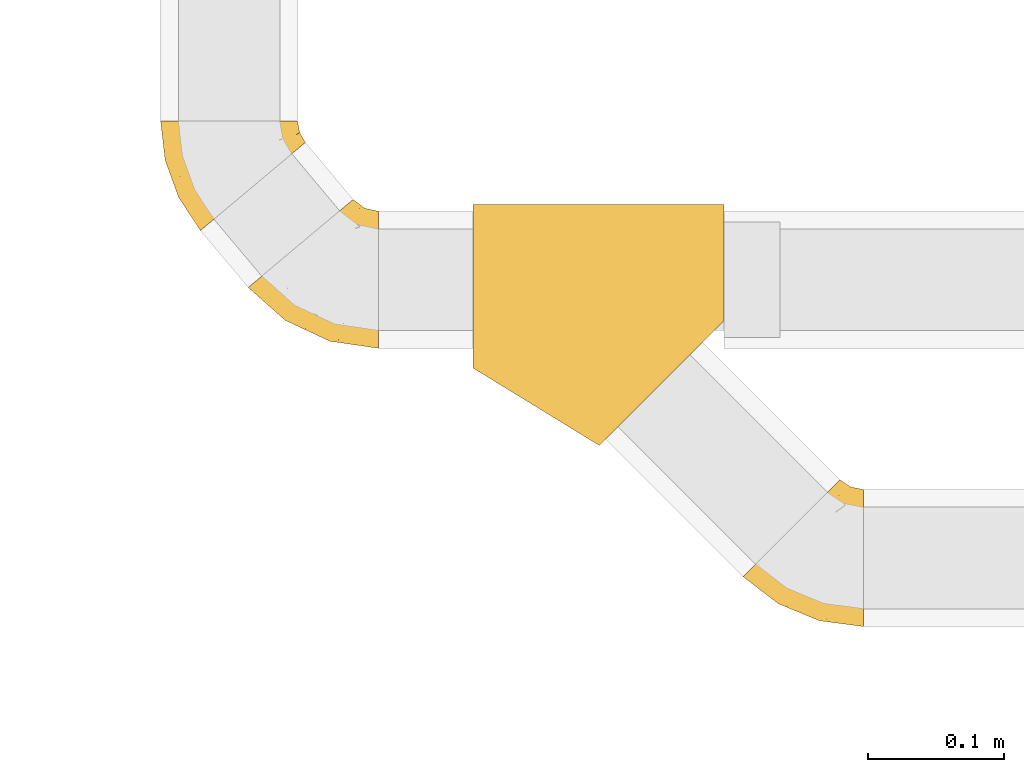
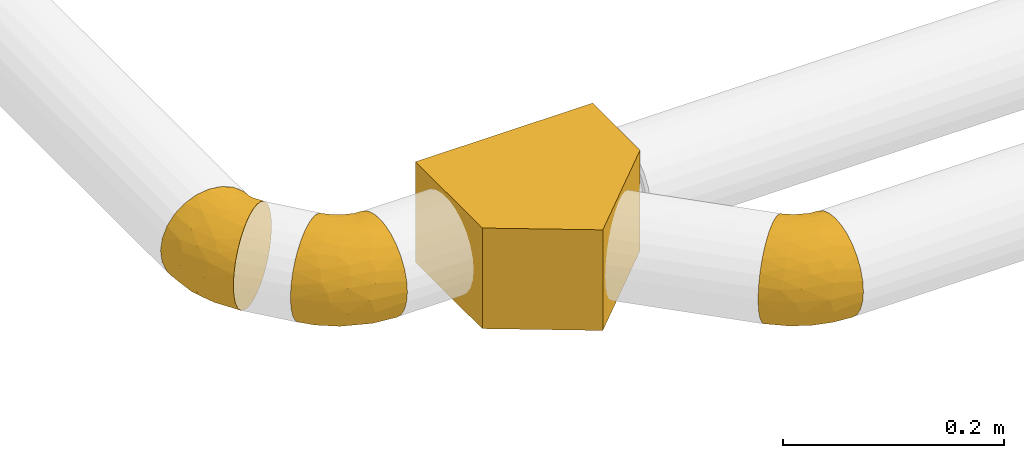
# One storey, part 34 of 156: 4 coverings.
"""IFC2X3 building model written with IfcOpenShell, lengths in millimetres."""

from ifc_helpers import new_model, entity, si_unit, converted_unit, derived_unit, direction, frame, origin_with_axes, place, context, subcontext, project, spatial, open_shell, surface_model, source, transform, mapped, element, save


model = new_model("IFC2X3")

# Units and contexts
model_context = context("Model", 3, precision=0.01, world=frame((0.0, 4.29681676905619e-09, 0.0)), true_north=direction((4.01073788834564e-13, 1.0)))
plan_context = context("Plan", 3, precision=0.01, world=frame((0.0, 4.29681676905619e-09, 0.0)), true_north=direction((4.01073788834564e-13, 1.0)))
body_context = subcontext(model_context, "Body", "Model", "MODEL_VIEW")
ifc_project = project(units=[converted_unit("PLANEANGLEUNIT", "DEGREE", entity("IfcPositiveLengthMeasure", 0.0174532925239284), si_unit("PLANEANGLEUNIT", "RADIAN"), dimensions=[0, 0, 0, 0, 0, 0, 0]), si_unit("AREAUNIT", "SQUARE_METRE"), si_unit("LENGTHUNIT", "METRE", prefix="MILLI"), si_unit("MASSUNIT", "GRAM", prefix="KILO"), si_unit("POWERUNIT", "WATT"), si_unit("PRESSUREUNIT", "PASCAL", prefix="KILO"), si_unit("FORCEUNIT", "NEWTON", prefix="KILO"), si_unit("ELECTRICVOLTAGEUNIT", "VOLT"), si_unit("ELECTRICCURRENTUNIT", "AMPERE"), si_unit("THERMODYNAMICTEMPERATUREUNIT", "DEGREE_CELSIUS"), si_unit("TIMEUNIT", "SECOND"), si_unit("VOLUMEUNIT", "CUBIC_METRE"), derived_unit("LINEARVELOCITYUNIT", [(si_unit("LENGTHUNIT", "METRE"), 1), (si_unit("TIMEUNIT", "SECOND"), -1)]), derived_unit("VOLUMETRICFLOWRATEUNIT", [(si_unit("VOLUMEUNIT", "CUBIC_METRE"), 1), (si_unit("TIMEUNIT", "SECOND"), -1)]), derived_unit("THERMALTRANSMITTANCEUNIT", [(si_unit("POWERUNIT", "WATT"), 1), (si_unit("THERMODYNAMICTEMPERATUREUNIT", "KELVIN"), -1), (si_unit("AREAUNIT", "SQUARE_METRE"), -1)]), derived_unit("SOUNDPRESSUREUNIT", [(si_unit("PRESSUREUNIT", "PASCAL"), 1)])], contexts=[model_context, plan_context])

# Site, building, storey
site_placement = place(None, frame((0.0, -4.29681676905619e-09, 0.0), z_axis=(0.0, 0.0, 1.0), x_axis=(1.0, 0.0, 0.0)))
site = spatial("IfcSite", under=ifc_project, at=site_placement, CompositionType="ELEMENT")
building_placement = place(site_placement, frame((0.0, 4.29681676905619e-09, 0.0), z_axis=(0.0, 0.0, 1.0), x_axis=(1.0, 0.0, 0.0)))
building = spatial("IfcBuilding", under=site, at=building_placement, Name="mc-building", CompositionType="ELEMENT")
storey_placement = place(building_placement, frame((0.0, 0.0, 205200.0), z_axis=(0.0, 0.0, 1.0), x_axis=(1.0, 0.0, 0.0)))
storey = spatial("IfcBuildingStorey", under=building, at=storey_placement, Name="Nivå D + 1,2 m", CompositionType="ELEMENT", Elevation=205200.0)

# Coverings
shared_shape_1 = source(origin_with_axes(), body_context, "Body", "SurfaceModel", [
    surface_model("IfcShellBasedSurfaceModel", [(-10.73479, 55.26101, 11.24292), (-10.73655, 55.26311, -11.23089), (-11.54947, 56.23191, 0.0), (-4.4636, 47.7873, 31.49394), (-8.33238, 52.39793, 21.91909), (0.67707, 41.66089, 39.48835), (6.8318, 34.32597, 45.50245), (34.99081, 0.76737, -45.50245), (6.82198, 34.33767, -45.49509), (-8.33711, 52.40356, -21.90382), (-4.47132, 47.7965, -31.47888), (0.66739, 41.67242, -39.47635), (20.9113, 17.54667, -50.5), (13.68449, 26.15925, -49.23258), (52.55739, -20.16768, -11.24292), (13.69223, 26.15003, 49.23533), (20.9113, 17.54667, 50.5), (28.13811, 8.93409, 49.23258), (35.00063, 0.75567, 45.49509), (46.29393, -12.70317, 31.47888), (50.15971, -17.31023, 21.90382), (52.55916, -20.16978, 11.23089), (41.15521, -6.57909, 39.47635), (53.37208, -21.13858, 0.0), (46.28621, -12.69397, -31.49394), (41.14554, -6.56756, -39.48835), (28.13038, 8.94331, -49.23533), (50.15498, -17.3046, -21.91909), (-27.29777, 25.25, -43.73428), (-27.29777, 50.5, 0.0), (-27.29777, 48.77925, -13.07036), (-27.29777, 43.73428, -25.25), (-27.29777, 13.07036, 48.77925), (-27.29777, 35.70889, -35.70889), (-27.29777, 13.07036, -48.77925), (-27.29777, 48.77925, 13.07036), (-27.29777, 35.70889, 35.70889), (-27.29777, 43.73428, 25.25), (-27.29777, 25.25, 43.73428), (-27.29777, 0.0, 50.5), (-27.29777, 0.0, -50.5), (-27.29777, -35.70889, -35.70889), (-27.29777, -13.07036, -48.77925), (-27.29777, -25.25, -43.73428), (-27.29777, -25.25, 43.73428), (-27.29777, -43.73428, -25.25), (-27.29777, -48.77925, -13.07036), (-27.29777, -50.5, 0.0), (-27.29777, -35.70889, 35.70889), (-27.29777, -13.07036, 48.77925), (-27.29777, -43.73428, 25.25), (-27.29777, -48.77925, 13.07036), (24.50874, -23.71011, 34.92165), (1.64452, -47.11713, 0.0), (-0.50974, -33.45104, 34.67841), (-5.7509, -42.94288, 23.12351), (2.51349, -44.7395, 14.42915), (30.43497, -33.46022, 16.08877), (13.99213, -36.07158, 25.65507), (12.62564, -9.20355, 47.11077), (11.53857, -0.08096, 49.59253), (-5.60727, -8.7821, 49.16278), (9.00341, -21.96661, 41.66272), (-7.5202, -19.11975, 45.84603), (29.02653, -37.1509, 0.0), (33.69398, -26.13149, 26.31832), (-1.64626, 4.52305, 50.5), (-21.5737, 46.18174, 21.66052), (-22.11248, 49.56078, 12.06456), (-14.71826, 13.31945, 49.04135), (-9.27281, 30.39592, 42.74452), (-19.41917, 31.44936, 40.06434), (-16.8979, 22.67674, 45.62224), (-17.17817, 49.60577, 16.68598), (-21.07383, 40.62322, 30.74245), (-18.91827, 51.97753, 0.0), (-15.19761, 45.08997, 26.90654), (-13.52472, 38.19471, 35.7157), (-5.69109, 20.82169, 47.66853), (-1.55839, 21.32065, -48.07257), (-16.54857, 20.37305, -46.65592), (-10.47672, 29.91101, -42.7546), (-21.49618, 40.54943, -30.74245), (-21.82982, 47.18834, -19.32551), (-16.02986, 44.7977, -26.86021), (-22.00416, 51.43341, 0.0), (-22.58305, 49.98394, -9.78203), (-19.69141, 31.91784, -39.66853), (-15.2187, 10.91055, -49.5435), (-13.84978, 38.08876, -35.70248), (-15.66454, 50.72481, -15.44149), (-1.64626, 4.52305, -50.5), (-11.09284, 2.85737, -50.5), (12.62147, -9.19037, -47.11606), (-0.51198, -33.43801, -34.69236), (13.98762, -36.06379, -25.67011), (-5.74954, -42.93457, -23.13889), (-5.61289, -8.76264, -49.16753), (24.50363, -23.69795, -34.93537), (-7.53545, -19.1061, -45.85365), (9.00008, -21.9521, -41.67282), (2.50702, -44.73567, -14.44684), (30.4298, -33.45783, -16.10226), (33.68933, -26.12343, -26.33354), (11.535, -0.06906, -49.59487)], [open_shell([[[0, 1, 2]], [[3, 0, 4]], [[5, 6, 7]], [[8, 0, 5]], [[0, 3, 5]], [[5, 7, 8]], [[9, 8, 10]], [[8, 9, 1]], [[11, 10, 8]], [[12, 13, 8]], [[0, 8, 1]], [[8, 7, 12]], [[14, 6, 15]], [[16, 17, 18]], [[14, 16, 18]], [[14, 18, 19]], [[20, 21, 19]], [[19, 18, 22]], [[23, 19, 21]], [[7, 24, 25]], [[7, 26, 12]], [[14, 24, 7]], [[27, 24, 14]], [[14, 7, 6]], [[19, 23, 14]], [[14, 15, 16]], [[28, 29, 30]], [[28, 30, 31]], [[29, 28, 32]], [[28, 31, 33]], [[32, 28, 34]], [[35, 36, 37]], [[36, 35, 32]], [[36, 32, 38]], [[35, 29, 32]], [[34, 39, 32]], [[34, 40, 39]], [[41, 40, 42]], [[41, 42, 43]], [[44, 41, 45]], [[41, 44, 39]], [[46, 47, 45]], [[44, 47, 48]], [[49, 39, 44]], [[50, 47, 51]], [[47, 50, 48]], [[45, 47, 44]], [[39, 40, 41]], [[22, 52, 19]], [[51, 47, 53]], [[54, 50, 55]], [[56, 57, 58]], [[54, 44, 48]], [[55, 56, 58]], [[59, 60, 61]], [[62, 59, 63]], [[61, 39, 49]], [[49, 63, 61]], [[51, 56, 55]], [[62, 44, 54]], [[52, 62, 54]], [[62, 63, 44]], [[57, 56, 64]], [[64, 21, 57]], [[20, 19, 65]], [[20, 65, 57]], [[61, 63, 59]], [[23, 21, 64]], [[22, 62, 52]], [[57, 65, 58]], [[51, 53, 56]], [[60, 16, 66]], [[18, 17, 59]], [[62, 18, 59]], [[58, 52, 54]], [[50, 54, 48]], [[18, 62, 22]], [[64, 56, 53]], [[52, 65, 19]], [[20, 57, 21]], [[49, 44, 63]], [[65, 52, 58]], [[60, 59, 17]], [[39, 61, 66]], [[16, 60, 17]], [[66, 61, 60]], [[54, 55, 58]], [[51, 55, 50]], [[35, 67, 68]], [[39, 66, 69]], [[70, 71, 72]], [[32, 69, 72]], [[67, 73, 68]], [[5, 70, 6]], [[74, 37, 36]], [[73, 75, 68]], [[74, 36, 71]], [[76, 74, 77]], [[77, 3, 76]], [[35, 68, 29]], [[78, 66, 15]], [[6, 70, 78]], [[3, 77, 5]], [[4, 73, 76]], [[38, 71, 36]], [[78, 15, 6]], [[77, 71, 70]], [[69, 78, 72]], [[4, 0, 73]], [[76, 73, 67]], [[0, 2, 75]], [[67, 37, 74]], [[76, 67, 74]], [[75, 73, 0]], [[67, 35, 37]], [[4, 76, 3]], [[72, 71, 38]], [[15, 66, 16]], [[74, 71, 77]], [[29, 68, 75]], [[5, 77, 70]], [[32, 72, 38]], [[70, 72, 78]], [[39, 69, 32]], [[66, 78, 69]], [[79, 80, 81]], [[13, 79, 8]], [[82, 83, 84]], [[29, 85, 86]], [[83, 30, 86]], [[31, 82, 33]], [[80, 28, 87]], [[79, 88, 80]], [[82, 89, 87]], [[8, 79, 81]], [[90, 75, 1]], [[88, 40, 34]], [[90, 84, 83]], [[86, 85, 75]], [[10, 84, 9]], [[10, 11, 89]], [[83, 31, 30]], [[33, 82, 87]], [[9, 84, 90]], [[81, 89, 11]], [[80, 34, 28]], [[81, 11, 8]], [[13, 12, 91]], [[88, 91, 92]], [[9, 90, 1]], [[80, 88, 34]], [[88, 79, 91]], [[91, 79, 13]], [[75, 90, 86]], [[1, 75, 2]], [[29, 86, 30]], [[86, 90, 83]], [[40, 88, 92]], [[83, 82, 31]], [[89, 82, 84]], [[89, 84, 10]], [[89, 81, 87]], [[80, 87, 81]], [[28, 33, 87]], [[26, 7, 93]], [[94, 95, 96]], [[91, 97, 40]], [[98, 25, 24]], [[98, 95, 94]], [[99, 93, 100]], [[47, 46, 53]], [[97, 99, 42]], [[101, 95, 102]], [[98, 103, 95]], [[100, 94, 43]], [[101, 96, 95]], [[43, 42, 99]], [[94, 45, 41]], [[97, 104, 93]], [[102, 103, 27]], [[100, 93, 7]], [[64, 101, 102]], [[100, 7, 25]], [[103, 98, 24]], [[94, 41, 43]], [[98, 100, 25]], [[96, 46, 45]], [[103, 24, 27]], [[14, 23, 64]], [[101, 64, 53]], [[14, 64, 102]], [[103, 102, 95]], [[99, 100, 43]], [[14, 102, 27]], [[93, 99, 97]], [[104, 12, 26]], [[53, 46, 101]], [[98, 94, 100]], [[40, 97, 42]], [[93, 104, 26]], [[97, 91, 104]], [[12, 104, 91]], [[46, 96, 101]], [[94, 96, 45]]])]),
])
covering_1_placement = place(storey_placement, frame((338407.25109, 460598.98935, 4098.75644), z_axis=(0.0, 0.0, 1.0), x_axis=(0.0, -1.0, 0.0)))
element("IfcCovering", 1, at=covering_1_placement, inside=storey, Name="BI17T - Cellegummi 13 mm SPV fett", PredefinedType="INSULATION", context=body_context, shape_type="MappedRepresentation", body=[
    mapped(shared_shape_1, transform((0.0, 0.0, 0.0), scale=1.0)),
])
shared_shape_2 = source(origin_with_axes(), body_context, "Body", "SurfaceModel", [
    surface_model("IfcShellBasedSurfaceModel", [(-15.23408, 58.43702, 11.24292), (-15.23619, 58.43878, -11.23089), (-16.20499, 59.2517, 0.0), (-7.76038, 52.16583, 31.49394), (-12.371, 56.03461, 21.91909), (5.70096, 40.87043, 45.50245), (13.8769, 34.01001, 49.23533), (-1.63396, 47.02516, 39.48835), (39.25956, 12.71142, -45.50245), (22.48026, 26.79093, -50.5), (31.09284, 19.56412, 49.23258), (-12.37664, 56.03934, -21.90382), (5.68926, 40.88025, -45.49509), (-7.76957, 52.17356, -31.47888), (-1.6455, 47.03484, -39.47635), (13.86768, 34.01774, -49.23258), (22.48026, 26.79093, 50.5), (52.73009, 1.40831, 31.47888), (39.27126, 12.70161, 45.49509), (57.33716, -2.45748, 21.90382), (60.19671, -4.85693, 11.23089), (46.60601, 6.54702, 39.47635), (46.59448, 6.55669, -39.48835), (31.08362, 19.57185, -49.23533), (57.33152, -2.45275, -21.91909), (52.7209, 1.41602, -31.49394), (60.1946, -4.85516, -11.24292), (61.1655, -5.66984, 0.0), (-34.97307, 25.25, -43.73428), (-34.97307, 50.5, 0.0), (-34.97307, 48.77925, -13.07036), (-34.97307, 43.73428, -25.25), (-34.97307, 13.07036, 48.77925), (-34.97307, 35.70889, -35.70889), (-34.97307, 13.07036, -48.77925), (-34.97307, 48.77925, 13.07036), (-34.97307, 35.70889, 35.70889), (-34.97307, 43.73428, 25.25), (-34.97307, 25.25, 43.73428), (-34.97307, 0.0, 50.5), (-34.97307, 0.0, -50.5), (-34.97307, -35.70889, -35.70889), (-34.97307, -13.07036, -48.77925), (-34.97307, -25.25, -43.73428), (-34.97307, -25.25, 43.73428), (-34.97307, -43.73428, -25.25), (-34.97307, -48.77925, -13.07036), (-34.97307, -50.5, 0.0), (-34.97307, -35.70889, 35.70889), (-34.97307, -13.07036, 48.77925), (-34.97307, -43.73428, 25.25), (-34.97307, -48.77925, 13.07036), (29.21895, -16.61769, 34.51103), (1.02073, -45.22769, 0.0), (-1.35468, -44.96834, 9.54514), (-10.47961, -38.16528, 29.77889), (-7.82208, -43.93713, 18.4811), (23.05133, 2.14665, 47.13078), (-15.76188, -18.79177, 46.045), (2.09513, -18.12003, 43.74772), (4.01242, -8.60466, 47.46338), (33.9903, -29.85372, 0.0), (37.56527, -24.27812, 15.82903), (-18.99617, -30.34798, 39.42947), (-14.62603, -9.24787, 49.13307), (36.40833, -19.4165, 25.88258), (15.85383, -32.49307, 24.95393), (2.0076, -26.08345, 38.53783), (12.84546, -28.00357, 32.60698), (15.54788, -37.6623, 14.16981), (28.0995, -6.6524, 41.90906), (11.87681, 4.4448, 49.56098), (6.2401, 12.33841, 50.5), (-13.46283, 3.15079, 50.5), (-14.88994, 49.77236, 26.87553), (-12.3386, 42.87514, 35.7157), (-25.66347, 31.73267, 40.06434), (-15.77836, 17.67758, 48.35877), (-26.90924, 49.76108, 14.05682), (-24.61893, 52.79546, 0.0), (-29.796, 51.64773, 0.0), (-19.22873, 52.65299, 16.68598), (-21.15869, 45.86362, 26.87553), (-1.37777, 27.31884, 47.66853), (-14.34876, 31.50199, 42.76423), (-19.76713, 39.43671, 35.08482), (-27.29835, 40.48264, 31.28807), (-27.11755, 45.94914, 23.10238), (-20.41196, 56.02358, 0.0), (-4.99054, 37.33718, 42.76423), (-24.86574, 22.94343, 45.46991), (-5.00012, 37.34915, -42.7546), (-12.34644, 42.88627, -35.70208), (-1.38711, 27.32917, -47.6637), (-26.90245, 49.76589, -14.04815), (-21.16245, 45.8725, -26.86021), (-27.62433, 40.84599, -30.74245), (-29.34472, 46.01106, -21.97166), (-13.46283, 3.15079, -50.5), (-14.35587, 31.51557, -42.7546), (-15.79486, 17.6838, -48.35542), (-19.23087, 52.6574, -16.67216), (-19.28064, 38.29892, -36.32224), (-25.48568, 32.33008, -39.63971), (-21.37984, 25.09164, -44.81729), (-14.89592, 49.77991, -26.86021), (6.2401, 12.33841, -50.5), (-15.76188, -18.79177, -46.045), (-10.47877, -38.16513, -29.77886), (-19.01221, -30.34958, -39.43012), (-14.62603, -9.24787, -49.13307), (29.20656, -16.61099, -34.52448), (28.08827, -6.64256, -41.91891), (2.09535, -18.12013, -43.74762), (23.04328, 2.15767, -47.13603), (1.98113, -26.09165, -38.539), (12.84536, -27.99416, -32.61712), (-1.31613, -44.95705, -9.54753), (11.8522, 4.43273, -49.56167), (4.01242, -8.60466, -47.46338), (-7.81148, -43.93485, -18.48077), (15.84914, -32.48593, -24.96882), (15.5568, -37.65042, -14.19437), (37.5607, -24.27599, -15.84242), (39.77796, -16.64601, -26.04522)], [open_shell([[[0, 1, 2]], [[3, 0, 4]], [[5, 6, 7]], [[8, 9, 0]], [[0, 3, 7]], [[7, 10, 0]], [[11, 12, 13]], [[12, 11, 1]], [[14, 13, 12]], [[9, 15, 12]], [[1, 9, 12]], [[1, 0, 9]], [[7, 6, 16]], [[8, 0, 10]], [[17, 10, 18]], [[8, 10, 17]], [[19, 20, 17]], [[17, 18, 21]], [[22, 17, 20]], [[17, 22, 8]], [[23, 9, 8]], [[24, 22, 20]], [[25, 22, 24]], [[26, 24, 20]], [[26, 20, 27]], [[7, 16, 10]], [[28, 29, 30]], [[28, 30, 31]], [[29, 28, 32]], [[28, 31, 33]], [[32, 28, 34]], [[35, 36, 37]], [[36, 35, 32]], [[36, 32, 38]], [[35, 29, 32]], [[34, 39, 32]], [[34, 40, 39]], [[41, 40, 42]], [[41, 42, 43]], [[44, 41, 45]], [[41, 44, 39]], [[46, 47, 45]], [[44, 47, 48]], [[49, 39, 44]], [[50, 47, 51]], [[47, 50, 48]], [[45, 47, 44]], [[39, 40, 41]], [[52, 17, 21]], [[47, 53, 54]], [[55, 50, 56]], [[55, 48, 50]], [[18, 10, 57]], [[58, 59, 60]], [[61, 20, 62]], [[63, 44, 48]], [[64, 39, 49]], [[49, 58, 64]], [[44, 58, 49]], [[65, 66, 62]], [[67, 63, 55]], [[67, 68, 52]], [[62, 69, 61]], [[66, 56, 69]], [[21, 70, 52]], [[65, 52, 68]], [[65, 17, 52]], [[20, 61, 27]], [[57, 60, 59]], [[10, 16, 71]], [[50, 51, 56]], [[55, 66, 68]], [[70, 21, 18]], [[72, 71, 16]], [[64, 71, 73]], [[57, 71, 60]], [[57, 59, 70]], [[57, 70, 18]], [[52, 70, 67]], [[66, 69, 62]], [[56, 66, 55]], [[62, 20, 19]], [[10, 71, 57]], [[54, 51, 47]], [[73, 71, 72]], [[56, 54, 69]], [[61, 69, 53]], [[58, 44, 63]], [[64, 58, 60]], [[71, 64, 60]], [[39, 64, 73]], [[63, 59, 58]], [[70, 59, 67]], [[51, 54, 56]], [[53, 69, 54]], [[55, 63, 48]], [[63, 67, 59]], [[55, 68, 67]], [[65, 68, 66]], [[62, 19, 65]], [[17, 65, 19]], [[74, 75, 3]], [[32, 39, 73]], [[38, 76, 36]], [[73, 72, 77]], [[78, 79, 80]], [[4, 0, 81]], [[80, 35, 78]], [[32, 73, 77]], [[81, 78, 82]], [[83, 84, 77]], [[76, 84, 85]], [[86, 87, 37]], [[0, 88, 81]], [[80, 29, 35]], [[83, 77, 72]], [[75, 74, 82]], [[5, 7, 89]], [[5, 89, 83]], [[7, 3, 75]], [[16, 6, 72]], [[84, 76, 90]], [[86, 36, 76]], [[3, 4, 74]], [[32, 77, 90]], [[79, 78, 81]], [[72, 6, 83]], [[87, 35, 37]], [[82, 74, 81]], [[82, 86, 85]], [[89, 75, 84]], [[83, 89, 84]], [[5, 83, 6]], [[81, 74, 4]], [[75, 89, 7]], [[90, 76, 38]], [[75, 82, 85]], [[87, 86, 82]], [[37, 36, 86]], [[76, 85, 86]], [[84, 75, 85]], [[32, 90, 38]], [[84, 90, 77]], [[82, 78, 87]], [[87, 78, 35]], [[88, 0, 2]], [[88, 79, 81]], [[91, 92, 14]], [[15, 93, 12]], [[1, 88, 2]], [[30, 80, 94]], [[95, 96, 97]], [[31, 96, 33]], [[40, 34, 98]], [[92, 91, 99]], [[93, 100, 99]], [[94, 79, 101]], [[96, 95, 102]], [[103, 99, 104]], [[34, 104, 100]], [[99, 103, 102]], [[1, 11, 101]], [[93, 91, 12]], [[13, 105, 11]], [[13, 14, 92]], [[30, 94, 97]], [[103, 33, 96]], [[105, 101, 11]], [[95, 105, 92]], [[100, 93, 106]], [[91, 14, 12]], [[15, 9, 106]], [[100, 106, 98]], [[104, 34, 28]], [[91, 93, 99]], [[94, 101, 95]], [[15, 106, 93]], [[92, 105, 13]], [[1, 101, 88]], [[101, 105, 95]], [[98, 34, 100]], [[97, 96, 31]], [[92, 99, 102]], [[104, 99, 100]], [[28, 33, 103]], [[96, 102, 103]], [[95, 92, 102]], [[30, 97, 31]], [[95, 97, 94]], [[101, 79, 88]], [[80, 30, 29]], [[80, 79, 94]], [[28, 103, 104]], [[43, 42, 107]], [[108, 41, 109]], [[98, 110, 40]], [[111, 112, 22]], [[112, 113, 114]], [[115, 116, 108]], [[46, 117, 47]], [[118, 119, 110]], [[120, 46, 45]], [[112, 114, 8]], [[43, 109, 41]], [[41, 108, 45]], [[118, 114, 119]], [[23, 8, 114]], [[118, 98, 106]], [[121, 120, 108]], [[9, 23, 118]], [[120, 45, 108]], [[111, 22, 25]], [[122, 121, 123]], [[116, 115, 111]], [[107, 110, 119]], [[46, 120, 117]], [[112, 115, 113]], [[120, 121, 122]], [[24, 123, 124]], [[26, 27, 61]], [[26, 61, 123]], [[8, 22, 112]], [[121, 111, 124]], [[122, 61, 53]], [[26, 123, 24]], [[25, 24, 124]], [[118, 23, 114]], [[115, 112, 111]], [[109, 107, 113]], [[118, 106, 9]], [[61, 122, 123]], [[117, 120, 122]], [[110, 107, 42]], [[113, 107, 119]], [[40, 110, 42]], [[118, 110, 98]], [[113, 119, 114]], [[109, 113, 115]], [[122, 53, 117]], [[117, 53, 47]], [[107, 109, 43]], [[108, 109, 115]], [[121, 124, 123]], [[25, 124, 111]], [[111, 121, 116]], [[108, 116, 121]]])]),
])
covering_2_placement = place(storey_placement, frame((338482.52781, 460509.27805, 4098.75644), z_axis=(0.0, 0.0, 1.0), x_axis=(0.642788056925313, -0.766044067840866, 0.0)))
element("IfcCovering", 2, at=covering_2_placement, inside=storey, Name="BI17T - Cellegummi 13 mm SPV fett", PredefinedType="INSULATION", context=body_context, shape_type="MappedRepresentation", body=[
    mapped(shared_shape_2, transform((0.0, 0.0, 0.0), scale=1.0)),
])
shared_shape_3 = source(origin_with_axes(), body_context, "Body", "SurfaceModel", [
    surface_model("IfcShellBasedSurfaceModel", [(51.5165, -65.10556, -55.5), (51.5165, -65.10556, 55.5), (-41.33792, -122.05044, 55.5), (-41.33792, -122.05044, -55.5), (-133.21068, -30.17767, -55.5), (-133.21068, -30.17767, 55.5), (-133.21068, 55.5, 55.5), (-133.21068, 55.5, -55.5), (51.5165, 55.5, -55.5), (51.5165, 55.5, 55.5)], [open_shell([[[0, 1, 2]], [[2, 3, 0]], [[3, 2, 4]], [[5, 4, 2]], [[6, 7, 4]], [[4, 5, 6]], [[8, 0, 4]], [[4, 7, 8]], [[4, 0, 3]], [[6, 5, 9]], [[1, 9, 5]], [[1, 5, 2]], [[1, 0, 8]], [[8, 9, 1]], [[8, 7, 9]], [[6, 9, 7]]])]),
])
covering_3_placement = place(storey_placement, frame((338638.7041, 460509.27805, 4098.23676), z_axis=(0.0, 0.0, -1.0), x_axis=(-1.0, 0.0, 0.0)))
element("IfcCovering", 3, at=covering_3_placement, inside=storey, Name="BI17T - Cellegummi 13 mm SPV fett", PredefinedType="INSULATION", context=body_context, shape_type="MappedRepresentation", body=[
    mapped(shared_shape_3, transform((0.0, 0.0, 0.0), scale=1.0)),
])
shared_shape_4 = source(origin_with_axes(), body_context, "Body", "SurfaceModel", [
    surface_model("IfcShellBasedSurfaceModel", [(-12.8457, 56.77968, 11.24292), (-12.84764, 56.78162, -11.23089), (-13.7419, 57.67589, 0.0), (-5.947, 49.88099, 31.49394), (-10.2029, 54.13688, 21.91909), (6.47865, 37.45533, 45.50245), (14.02555, 29.90843, 49.23533), (-0.29194, 44.22592, 39.48835), (37.45533, 6.47865, -45.50245), (-5.95549, 49.88947, -31.47888), (-10.2081, 54.14208, -21.90382), (21.96699, 21.96699, -50.5), (6.46785, 37.46613, -45.49509), (-0.30259, 44.23657, -39.47635), (14.01705, 29.91694, -49.23258), (29.91694, 14.01705, 49.23258), (54.14208, -10.2081, 21.90382), (37.46613, 6.46785, 45.49509), (49.88947, -5.95549, 31.47888), (56.77968, -12.8457, -11.24292), (44.23657, -0.30259, 39.47635), (56.78162, -12.84764, 11.23089), (49.88099, -5.947, -31.49394), (44.22592, -0.29194, -39.48835), (29.90843, 14.02555, -49.23533), (54.13688, -10.2029, -21.91909), (57.67589, -13.7419, 0.0), (21.96699, 21.96699, 50.5), (-31.06602, 25.25, -43.73428), (-31.06602, 50.5, 0.0), (-31.06602, 48.77925, -13.07036), (-31.06602, 43.73428, -25.25), (-31.06602, 13.07036, 48.77925), (-31.06602, 35.70889, -35.70889), (-31.06602, 13.07036, -48.77925), (-31.06602, 48.77925, 13.07036), (-31.06602, 35.70889, 35.70889), (-31.06602, 43.73428, 25.25), (-31.06602, 25.25, 43.73428), (-31.06602, 0.0, 50.5), (-31.06602, 0.0, -50.5), (-31.06602, -35.70889, -35.70889), (-31.06602, -13.07036, -48.77925), (-31.06602, -25.25, -43.73428), (-31.06602, -25.25, 43.73428), (-31.06602, -43.73428, -25.25), (-31.06602, -48.77925, -13.07036), (-31.06602, -50.5, 0.0), (-31.06602, -35.70889, 35.70889), (-31.06602, -13.07036, 48.77925), (-31.06602, -43.73428, 25.25), (-31.06602, -48.77925, 13.07036), (27.91001, -19.77547, 34.76667), (1.41577, -46.22369, 0.0), (-11.40017, -47.38831, 12.38309), (-8.74293, -38.48357, 29.95251), (31.68398, -33.68619, 0.0), (7.55474, -42.53704, 13.29129), (-9.06389, -30.95235, 38.04162), (34.28789, -29.09431, 15.96636), (15.01424, -34.38084, 25.32479), (-2.36476, 5.70904, 50.5), (-9.36764, -7.03445, 49.52895), (10.2572, 2.07109, 49.72335), (-8.37178, -17.70659, 46.1768), (9.50066, -20.74611, 41.35329), (14.85338, -6.42265, 46.9978), (-9.29892, -44.09145, 20.69599), (8.90841, -30.40154, 33.56936), (36.21763, -22.18027, 26.15461), (27.84037, -9.29064, 42.13676), (-20.79304, 48.58309, 19.32551), (-26.44918, 47.1374, 19.07845), (-23.61531, 41.83953, 29.46524), (-1.17488, 17.41452, 49.47585), (-14.06989, 12.68578, 49.4155), (-21.92445, 19.8307, 46.75749), (-10.88746, 23.11094, 46.65592), (-18.20524, 54.69358, 0.0), (8.30371, 12.83748, 50.5), (-24.3338, 50.31714, 10.40952), (-19.30689, 52.34596, 10.11883), (-22.20424, 36.19202, 36.21736), (-18.99815, 30.03676, 41.72657), (-15.7369, 38.81514, 35.7157), (-8.57232, 42.77641, 35.7157), (-5.52639, 34.19353, 42.76423), (-13.96266, 47.66429, 26.87553), (-1.08153, 26.97177, 47.03628), (-16.2501, 51.28088, 18.38671), (-21.69027, 52.36495, 0.0), (-25.80115, 51.54725, 0.0), (-14.94908, 3.20586, 50.5), (-3.53914, 35.52551, -42.7546), (-10.74577, 41.37941, -35.70208), (-0.90387, 25.09239, -47.6637), (-12.62734, 48.55836, -26.86021), (-26.37815, 51.43248, 0.0), (-23.87524, 48.92946, -15.82645), (-16.71539, 2.85452, -50.5), (-18.51789, 45.30675, -26.86021), (-19.58101, 37.43174, -35.70238), (-24.61924, 42.24315, -28.60873), (-15.34005, 17.97223, -47.95027), (-22.11394, 29.49513, -41.60502), (-16.92844, 51.60902, -16.67216), (-2.36476, 5.70904, -50.5), (-12.33365, 30.67097, -42.7546), (8.30371, 12.83748, -50.5), (-9.39093, -7.02944, -49.5311), (14.84809, -6.40997, -47.00316), (-8.36548, -17.69129, -46.18271), (27.90408, -19.76379, -34.78041), (36.21251, -22.17262, -26.1698), (15.00964, -34.37336, -25.33976), (34.28306, -29.09205, -15.9798), (-11.41141, -47.38686, -12.39583), (10.21933, 2.05233, -49.72376), (7.53272, -42.54113, -13.30224), (-9.05791, -30.94797, -38.0443), (-8.75334, -38.48533, -29.95289), (-9.30865, -44.09015, -20.70274), (9.49658, -20.73201, -41.3635), (27.83229, -9.278, -42.14666), (8.91048, -30.40337, -33.56661)], [open_shell([[[0, 1, 2]], [[3, 0, 4]], [[5, 6, 7]], [[1, 0, 8]], [[0, 3, 7]], [[8, 0, 7]], [[1, 9, 10]], [[11, 9, 8]], [[12, 13, 14]], [[11, 14, 13]], [[13, 9, 11]], [[8, 9, 1]], [[7, 6, 15]], [[7, 15, 16]], [[16, 15, 17]], [[18, 16, 17]], [[19, 7, 16]], [[17, 20, 18]], [[19, 16, 21]], [[8, 22, 23]], [[24, 11, 8]], [[19, 22, 8]], [[25, 22, 19]], [[19, 8, 7]], [[21, 26, 19]], [[15, 6, 27]], [[28, 29, 30]], [[28, 30, 31]], [[29, 28, 32]], [[28, 31, 33]], [[32, 28, 34]], [[35, 36, 37]], [[36, 35, 32]], [[36, 32, 38]], [[35, 29, 32]], [[34, 39, 32]], [[34, 40, 39]], [[41, 40, 42]], [[41, 42, 43]], [[44, 41, 45]], [[41, 44, 39]], [[46, 47, 45]], [[44, 47, 48]], [[49, 39, 44]], [[50, 47, 51]], [[47, 50, 48]], [[45, 47, 44]], [[39, 40, 41]], [[20, 52, 18]], [[47, 53, 54]], [[50, 55, 48]], [[53, 56, 57]], [[58, 44, 48]], [[59, 60, 57]], [[61, 62, 63]], [[58, 64, 44]], [[62, 39, 49]], [[64, 65, 66]], [[54, 67, 51]], [[65, 58, 68]], [[55, 58, 48]], [[64, 62, 49]], [[59, 57, 56]], [[56, 21, 59]], [[16, 18, 69]], [[16, 69, 59]], [[66, 62, 64]], [[26, 21, 56]], [[70, 52, 20]], [[44, 64, 49]], [[60, 55, 67]], [[63, 27, 61]], [[17, 15, 66]], [[66, 65, 70]], [[59, 69, 60]], [[52, 69, 18]], [[17, 70, 20]], [[54, 57, 67]], [[66, 63, 62]], [[16, 59, 21]], [[39, 62, 61]], [[69, 52, 60]], [[67, 55, 50]], [[60, 52, 68]], [[68, 58, 55]], [[58, 65, 64]], [[60, 68, 55]], [[65, 68, 52]], [[66, 15, 63]], [[27, 63, 15]], [[51, 67, 50]], [[60, 67, 57]], [[66, 70, 17]], [[52, 70, 65]], [[47, 54, 51]], [[53, 57, 54]], [[71, 72, 73]], [[74, 75, 61]], [[32, 75, 76]], [[75, 74, 77]], [[0, 2, 78]], [[79, 6, 74]], [[71, 80, 72]], [[0, 78, 81]], [[82, 83, 84]], [[85, 86, 7]], [[73, 87, 71]], [[80, 71, 81]], [[86, 5, 7]], [[88, 6, 5]], [[3, 85, 7]], [[71, 89, 81]], [[82, 38, 83]], [[79, 74, 61]], [[74, 88, 77]], [[76, 77, 83]], [[80, 81, 90]], [[81, 89, 0]], [[80, 90, 91]], [[83, 86, 84]], [[78, 90, 81]], [[71, 87, 89]], [[87, 3, 4]], [[85, 87, 84]], [[77, 88, 86]], [[32, 39, 92]], [[79, 27, 6]], [[35, 91, 29]], [[75, 92, 61]], [[91, 35, 80]], [[72, 80, 35]], [[76, 75, 77]], [[32, 92, 75]], [[35, 37, 72]], [[73, 72, 37]], [[36, 73, 37]], [[73, 84, 87]], [[77, 86, 83]], [[38, 32, 76]], [[84, 73, 82]], [[38, 76, 83]], [[87, 85, 3]], [[86, 85, 84]], [[87, 4, 89]], [[0, 89, 4]], [[6, 88, 74]], [[5, 86, 88]], [[73, 36, 82]], [[38, 82, 36]], [[93, 94, 13]], [[12, 14, 95]], [[94, 96, 9]], [[30, 97, 98]], [[34, 99, 40]], [[100, 101, 102]], [[103, 28, 104]], [[78, 2, 1]], [[94, 101, 100]], [[98, 105, 100]], [[98, 100, 102]], [[99, 34, 103]], [[10, 105, 1]], [[106, 103, 95]], [[9, 96, 10]], [[9, 13, 94]], [[31, 30, 98]], [[33, 101, 104]], [[96, 105, 10]], [[100, 96, 94]], [[103, 107, 95]], [[93, 13, 12]], [[106, 95, 108]], [[95, 14, 108]], [[78, 105, 90]], [[93, 95, 107]], [[101, 94, 107]], [[98, 90, 105]], [[28, 103, 34]], [[105, 78, 1]], [[14, 11, 108]], [[103, 106, 99]], [[105, 96, 100]], [[95, 93, 12]], [[94, 93, 107]], [[104, 101, 107]], [[102, 33, 31]], [[103, 104, 107]], [[33, 104, 28]], [[33, 102, 101]], [[98, 102, 31]], [[97, 30, 29]], [[97, 90, 98]], [[109, 110, 111]], [[112, 113, 114]], [[106, 109, 40]], [[112, 23, 22]], [[115, 113, 25]], [[43, 42, 111]], [[46, 116, 47]], [[109, 106, 117]], [[115, 118, 114]], [[109, 111, 42]], [[119, 43, 111]], [[45, 120, 121]], [[40, 109, 42]], [[41, 120, 45]], [[8, 110, 24]], [[111, 122, 119]], [[110, 8, 123]], [[46, 121, 116]], [[123, 8, 23]], [[113, 112, 22]], [[124, 114, 120]], [[122, 123, 112]], [[118, 115, 56]], [[113, 22, 25]], [[19, 26, 56]], [[118, 56, 53]], [[19, 56, 115]], [[113, 115, 114]], [[111, 110, 122]], [[19, 115, 25]], [[117, 110, 109]], [[117, 11, 24]], [[121, 46, 45]], [[120, 119, 124]], [[119, 120, 41]], [[121, 114, 118]], [[43, 119, 41]], [[124, 122, 112]], [[122, 124, 119]], [[114, 124, 112]], [[11, 117, 106]], [[24, 110, 117]], [[114, 121, 120]], [[121, 118, 116]], [[112, 123, 23]], [[110, 123, 122]], [[118, 53, 116]], [[47, 116, 53]]])]),
])
covering_4_placement = place(storey_placement, frame((338843.76506, 460304.21708, 4098.23676), z_axis=(0.0, 0.0, 1.0), x_axis=(0.707106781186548, -0.707106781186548, 0.0)))
element("IfcCovering", 4, at=covering_4_placement, inside=storey, Name="BI17T - Cellegummi 13 mm SPV fett", PredefinedType="INSULATION", context=body_context, shape_type="MappedRepresentation", body=[
    mapped(shared_shape_4, transform((0.0, 0.0, 0.0), scale=1.0)),
])

save(model, "model.ifc")
